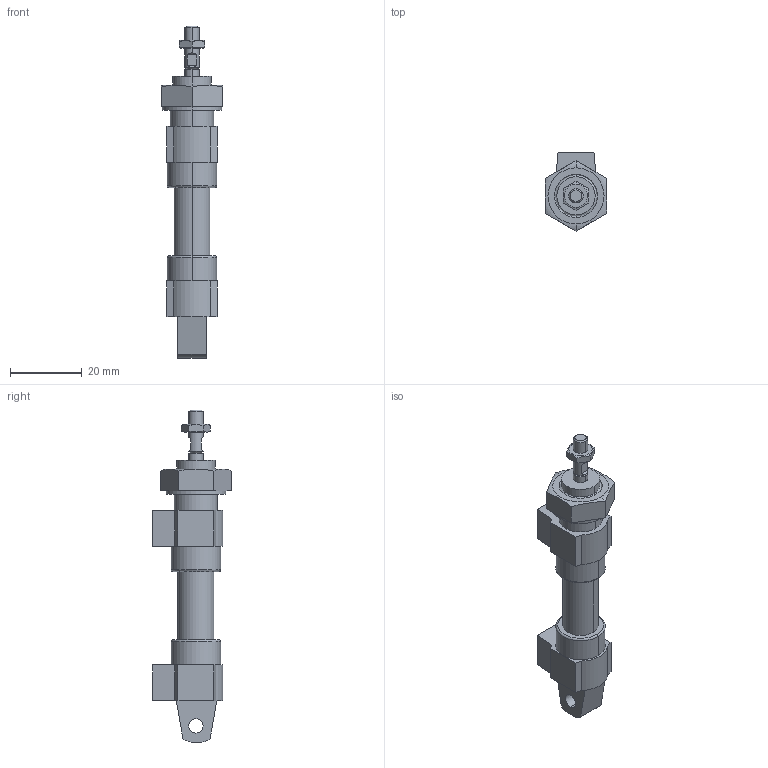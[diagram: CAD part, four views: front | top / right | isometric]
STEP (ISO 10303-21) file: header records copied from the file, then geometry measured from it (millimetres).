
FILE_DESCRIPTION((''),'2;1');
FILE_NAME('1320801000_ASM','2023-05-29T17:08:22',('THD3HC'),(''),'CREO PARAMETRIC BY PTC INC, 2020044','CREO PARAMETRIC BY PTC INC, 2020044','');
FILE_SCHEMA(('CONFIG_CONTROL_DESIGN','SHAPE_APPEARANCE_LAYERS_GROUPS'));
Length unit declared in the file: millimetre
Products named in the file (5): 1320801000-A; 1320801000-B; 1320801000-C; 3330310000; 1320801000_ASM
Assembly tree (4 placements, depth 2):
  1320801000_ASM
    1320801000-A
    1320801000-B
    1320801000-C
    3330310000
Bounding box: 17 x 21.82 x 92.5 mm (x, y, z)
Volume: 11153.6 mm3; surface area: 7647.7 mm2
Topology: 4 solids, 4 shells, 127 faces, 288 edges, 178 vertices
Faces by surface type: plane 59, cylinder 36, cone 26, torus 6
Entity records: 4712 total; most frequent: CARTESIAN_POINT 810, DIRECTION 634, ORIENTED_EDGE 568, EDGE_CURVE 284, AXIS2_PLACEMENT_3D 240, PRESENTATION_STYLE_ASSIGNMENT 197, STYLED_ITEM 197, VERTEX_POINT 178
